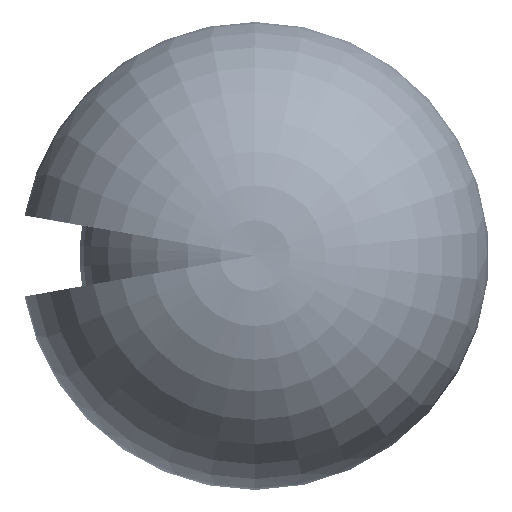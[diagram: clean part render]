
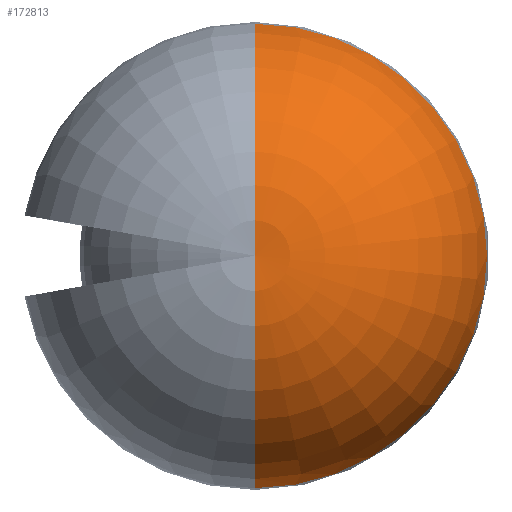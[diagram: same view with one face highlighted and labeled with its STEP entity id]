
A CAD part, top view. The second image highlights one B-rep face of the part: STEP entity #172813.
In plain terms, the highlighted toroidal (fillet/blend) face has major radius 340 mm and minor radius 2775.01 mm.
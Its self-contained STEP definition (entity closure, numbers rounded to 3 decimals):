
#19047 = TOROIDAL_SURFACE ( 'NONE', #394759, 340., 2775.01 ) ;
#45571 = CARTESIAN_POINT ( 'NONE',  ( 0., 340., 780. ) ) ;
#48398 = AXIS2_PLACEMENT_3D ( 'NONE', #276638, #130238, #384822 ) ;
#57003 = FACE_OUTER_BOUND ( 'NONE', #209683, .T. ) ;
#59377 = ORIENTED_EDGE ( 'NONE', *, *, #246507, .F. ) ;
#59972 = VERTEX_POINT ( 'NONE', #253489 ) ;
#72736 = DIRECTION ( 'NONE',  ( 0., 1., 0. ) ) ;
#73442 = ORIENTED_EDGE ( 'NONE', *, *, #195972, .F. ) ;
#116710 = EDGE_CURVE ( 'NONE', #59972, #301150, #304821, .T. ) ;
#124691 = DIRECTION ( 'NONE',  ( -1., 0., 0. ) ) ;
#130238 = DIRECTION ( 'NONE',  ( 0., 0., -1. ) ) ;
#131502 = CIRCLE ( 'NONE', #322971, 2775.01 ) ;
#133818 = CARTESIAN_POINT ( 'NONE',  ( 0., 0., 780. ) ) ;
#167421 = DIRECTION ( 'NONE',  ( 0., 0., -1. ) ) ;
#172813 = ADVANCED_FACE ( 'NONE', ( #57003 ), #19047, .T. ) ;
#195972 = EDGE_CURVE ( 'NONE', #363294, #301150, #454741, .T. ) ;
#209683 = EDGE_LOOP ( 'NONE', ( #59377, #342226, #73442 ) ) ;
#246507 = EDGE_CURVE ( 'NONE', #59972, #363294, #131502, .T. ) ;
#253489 = CARTESIAN_POINT ( 'NONE',  ( 0., 0., 3534.102 ) ) ;
#255305 = CARTESIAN_POINT ( 'NONE',  ( 0., -340., 780. ) ) ;
#276638 = CARTESIAN_POINT ( 'NONE',  ( 0., 0., 1261.875 ) ) ;
#281946 = AXIS2_PLACEMENT_3D ( 'NONE', #255305, #401866, #72736 ) ;
#298998 = CARTESIAN_POINT ( 'NONE',  ( 0., -3072.851, 1261.875 ) ) ;
#301150 = VERTEX_POINT ( 'NONE', #298998 ) ;
#304821 = CIRCLE ( 'NONE', #281946, 2775.01 ) ;
#322971 = AXIS2_PLACEMENT_3D ( 'NONE', #45571, #124691, #446444 ) ;
#341354 = CARTESIAN_POINT ( 'NONE',  ( 0., 3072.851, 1261.875 ) ) ;
#342226 = ORIENTED_EDGE ( 'NONE', *, *, #116710, .T. ) ;
#363294 = VERTEX_POINT ( 'NONE', #341354 ) ;
#384822 = DIRECTION ( 'NONE',  ( 0., 1., 0. ) ) ;
#394759 = AXIS2_PLACEMENT_3D ( 'NONE', #133818, #167421, #460182 ) ;
#401866 = DIRECTION ( 'NONE',  ( 1., 0., 0. ) ) ;
#446444 = DIRECTION ( 'NONE',  ( 0., 0., 1. ) ) ;
#454741 = CIRCLE ( 'NONE', #48398, 3072.851 ) ;
#460182 = DIRECTION ( 'NONE',  ( 0., 1., 0. ) ) ;
